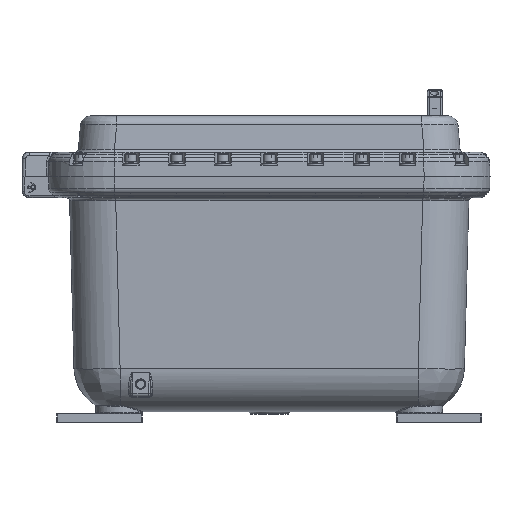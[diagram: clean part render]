
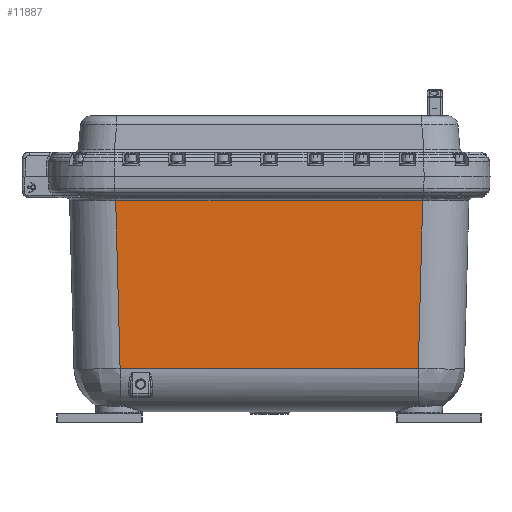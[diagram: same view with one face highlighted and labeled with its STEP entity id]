
A CAD part, left-side view. The second image highlights one B-rep face of the part: STEP entity #11887.
In plain terms, the highlighted planar face has unit normal (-1, 0, -0.026) as drawn and (1, -0.026, 0) by its records, which use the part's own axes.
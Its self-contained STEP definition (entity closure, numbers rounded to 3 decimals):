
#11887=ADVANCED_FACE('',(#30705),#30707,.T.);
#30705=FACE_BOUND('',#30706,.T.);
#30706=EDGE_LOOP('',(#64774,#64775,#64776,#64777));
#30707=PLANE('',#30708);
#30708=AXIS2_PLACEMENT_3D('',#30709,#30710,#30711);
#30709=CARTESIAN_POINT('',(410.5,-30.,-303.));
#30710=DIRECTION('',(1.,-0.026,0.));
#30711=DIRECTION('',(0.,0.,1.));
#64774=ORIENTED_EDGE('',*,*,#72551,.T.);
#64775=ORIENTED_EDGE('',*,*,#72552,.T.);
#64776=ORIENTED_EDGE('',*,*,#72490,.F.);
#64777=ORIENTED_EDGE('',*,*,#72553,.F.);
#72490=EDGE_CURVE('',#78297,#78299,#78300,.T.);
#72551=EDGE_CURVE('',#78408,#78409,#78410,.T.);
#72552=EDGE_CURVE('',#78409,#78299,#78411,.T.);
#72553=EDGE_CURVE('',#78408,#78297,#78412,.T.);
#78297=VERTEX_POINT('',#91981);
#78299=VERTEX_POINT('',#91986);
#78300=LINE('',#91987,#91988);
#78408=VERTEX_POINT('',#92564);
#78409=VERTEX_POINT('',#92565);
#78410=LINE('',#92566,#92567);
#78411=LINE('',#92569,#92570);
#78412=LINE('',#92572,#92573);
#91981=CARTESIAN_POINT('',(403.711,-289.267,-226.235));
#91986=CARTESIAN_POINT('',(403.711,-289.267,226.235));
#91987=CARTESIAN_POINT('',(403.711,-289.267,-226.235));
#91988=VECTOR('',#91989,1.);
#91989=DIRECTION('',(0.,0.,1.));
#92564=CARTESIAN_POINT('',(410.372,-34.869,-232.896));
#92565=CARTESIAN_POINT('',(410.372,-34.869,232.896));
#92566=CARTESIAN_POINT('',(410.372,-34.869,-232.896));
#92567=VECTOR('',#92568,1.);
#92568=DIRECTION('',(0.,0.,1.));
#92569=CARTESIAN_POINT('',(410.372,-34.869,232.896));
#92570=VECTOR('',#92571,1.);
#92571=DIRECTION('',(-0.026,-0.999,-0.026));
#92572=CARTESIAN_POINT('',(410.372,-34.869,-232.896));
#92573=VECTOR('',#92574,1.);
#92574=DIRECTION('',(-0.026,-0.999,0.026));
